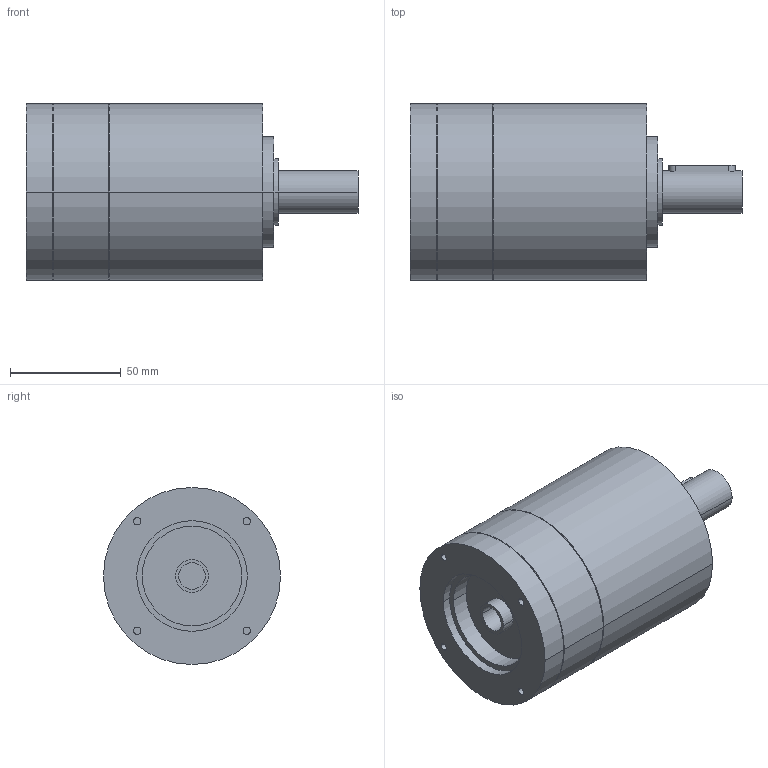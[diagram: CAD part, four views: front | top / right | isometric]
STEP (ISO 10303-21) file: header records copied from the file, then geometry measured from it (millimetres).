
FILE_DESCRIPTION(('CoCreate Modeling STEP Export'),'2;1');
FILE_NAME('GPR100_ig-3-4-5-6_19_B14_12.7_P22.stp','2014-08-26T10:06:32',(''),(''),'CoCreate Modeling STEP processor for AP214 (Solid Model)','CoCreate Modeling 16.00C 25-Feb-2009 (C) Parametric Technology GmbH','');
FILE_SCHEMA(('AUTOMOTIVE_DESIGN { 1 0 10303 214 1 1 1 1 }'));
Length unit declared in the file: millimetre
Products named in the file (2): GPR100_ig-3-4-5-6_19_B14_12.7_P22
Assembly tree (1 placements, depth 2):
  GPR100_ig-3-4-5-6_19_B14_12.7_P22
    GPR100_ig-3-4-5-6_19_B14_12.7_P22
Bounding box: 150 x 80 x 80 mm (x, y, z)
Volume: 535164.1 mm3; surface area: 45377.3 mm2
Topology: 1 solids, 1 shells, 68 faces, 162 edges, 112 vertices
Faces by surface type: cylinder 40, plane 22, cone 6
Entity records: 1691 total; most frequent: ORIENTED_EDGE 320, CARTESIAN_POINT 314, DIRECTION 224, EDGE_CURVE 160, VERTEX_POINT 112, AXIS2_PLACEMENT_3D 86, EDGE_LOOP 86, FACE_OUTER_BOUND 68
